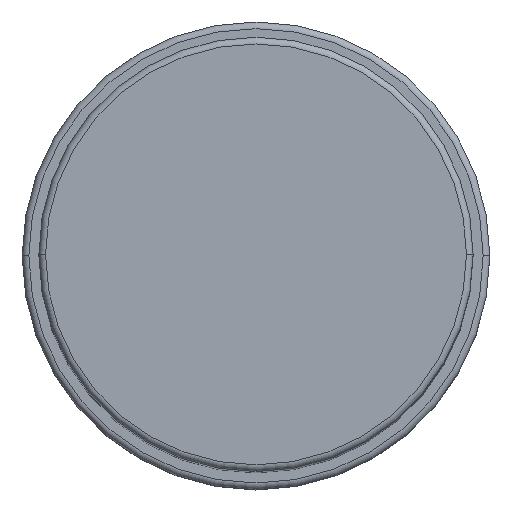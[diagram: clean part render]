
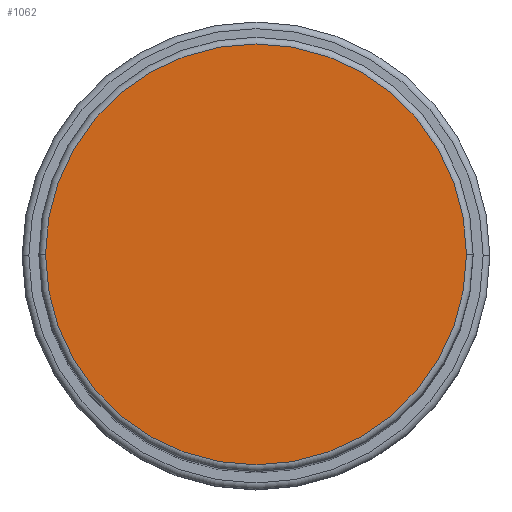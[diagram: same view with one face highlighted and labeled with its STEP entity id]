
A CAD part, top view. The second image highlights one B-rep face of the part: STEP entity #1062.
In plain terms, the highlighted planar face has unit normal (0, 0, 1).
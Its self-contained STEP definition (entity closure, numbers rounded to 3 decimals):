
#118 = DIRECTION ( 'NONE',  ( 0., 0., 1. ) ) ;
#120 = CARTESIAN_POINT ( 'NONE',  ( 0., 0., 138. ) ) ;
#159 = VERTEX_POINT ( 'NONE', #597 ) ;
#162 = EDGE_CURVE ( 'NONE', #1298, #159, #465, .T. ) ;
#307 = CARTESIAN_POINT ( 'NONE',  ( 0., 0., 138. ) ) ;
#376 = AXIS2_PLACEMENT_3D ( 'NONE', #307, #1006, #1134 ) ;
#377 = DIRECTION ( 'NONE',  ( 1., 0., 0. ) ) ;
#405 = CARTESIAN_POINT ( 'NONE',  ( -31.5, 0., 138. ) ) ;
#465 = CIRCLE ( 'NONE', #376, 31.5 ) ;
#474 = ORIENTED_EDGE ( 'NONE', *, *, #162, .T. ) ;
#478 = AXIS2_PLACEMENT_3D ( 'NONE', #520, #118, #377 ) ;
#520 = CARTESIAN_POINT ( 'NONE',  ( 0., 0., 138. ) ) ;
#572 = EDGE_LOOP ( 'NONE', ( #819, #474 ) ) ;
#597 = CARTESIAN_POINT ( 'NONE',  ( 31.5, 0., 138. ) ) ;
#819 = ORIENTED_EDGE ( 'NONE', *, *, #1012, .T. ) ;
#833 = AXIS2_PLACEMENT_3D ( 'NONE', #120, #1607, #1180 ) ;
#923 = PLANE ( 'NONE',  #833 ) ;
#935 = FACE_OUTER_BOUND ( 'NONE', #572, .T. ) ;
#1006 = DIRECTION ( 'NONE',  ( 0., 0., 1. ) ) ;
#1012 = EDGE_CURVE ( 'NONE', #159, #1298, #1673, .T. ) ;
#1062 = ADVANCED_FACE ( 'NONE', ( #935 ), #923, .T. ) ;
#1134 = DIRECTION ( 'NONE',  ( 1., 0., 0. ) ) ;
#1180 = DIRECTION ( 'NONE',  ( 1., 0., 0. ) ) ;
#1298 = VERTEX_POINT ( 'NONE', #405 ) ;
#1607 = DIRECTION ( 'NONE',  ( 0., 0., 1. ) ) ;
#1673 = CIRCLE ( 'NONE', #478, 31.5 ) ;
